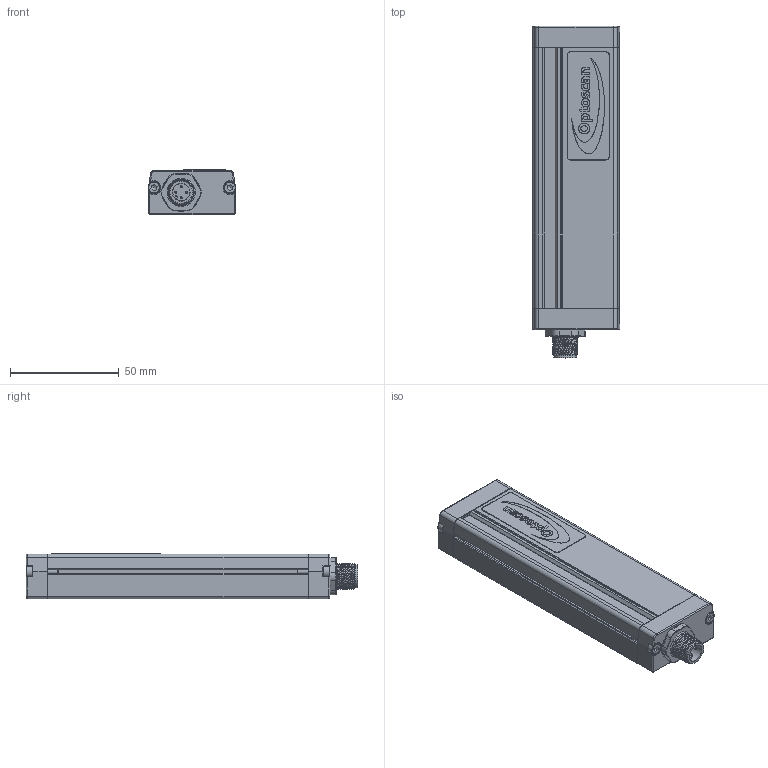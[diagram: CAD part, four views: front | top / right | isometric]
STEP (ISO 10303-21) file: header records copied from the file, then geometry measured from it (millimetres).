
FILE_DESCRIPTION(/* description */ (''),/* implementation_level */ '2;1');
FILE_NAME(/* name */ 'C:\Users\Andrea\SynologyDrive\Optoscan\Libreria Componenti\00 - Barriere\Barriera sorgente\Argo_120_TX.stp',/* time_stamp */ '2022-06-30T15:29:08+02:00',/* author */ ('Andrea'),/* organization */ (''),/* preprocessor_version */ 'ST-DEVELOPER v18.1',/* originating_system */ 'Autodesk Inventor 2022',/* authorisation */ '');
FILE_SCHEMA (('AUTOMOTIVE_DESIGN { 1 0 10303 214 3 1 1 }'));
Length unit declared in the file: millimetre
Products named in the file (1): Argo_120_TX
Bounding box: 40.5 x 152.8 x 20.75 mm (x, y, z)
Volume: 34567.5 mm3; surface area: 41376.4 mm2
Topology: 1 solids, 2 shells, 757 faces, 2033 edges, 1287 vertices
Faces by surface type: plane 338, cylinder 216, bspline 115, torus 74, cone 8, sphere 6
Full cylindrical faces by diameter (mm): 1 x12, 1.2 x4, 2.459 x4, 2.5 x4, 3 x4, 3.5 x4, 5.5 x4, 8 x1, 10 x1, 10.5 x2, 11.75 x8, 12 x1, 12.3 x3, 14.5 x1, 16.7 x1, 17.5 x1
Entity records: 30483 total; most frequent: CARTESIAN_POINT 11236, ORIENTED_EDGE 4050, DIRECTION 3531, EDGE_CURVE 2025, VERTEX_POINT 1287, AXIS2_PLACEMENT_3D 1230, LINE 1071, VECTOR 1071
